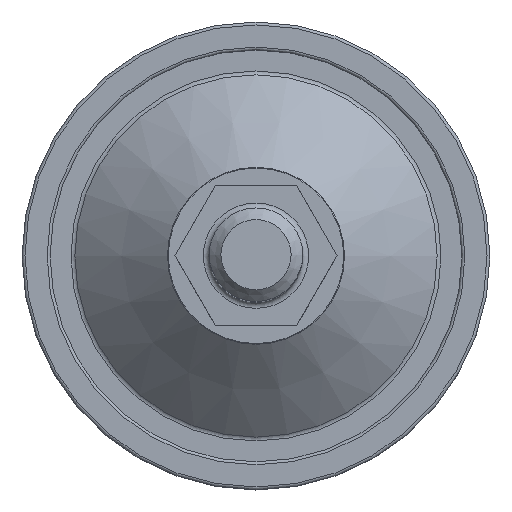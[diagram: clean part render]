
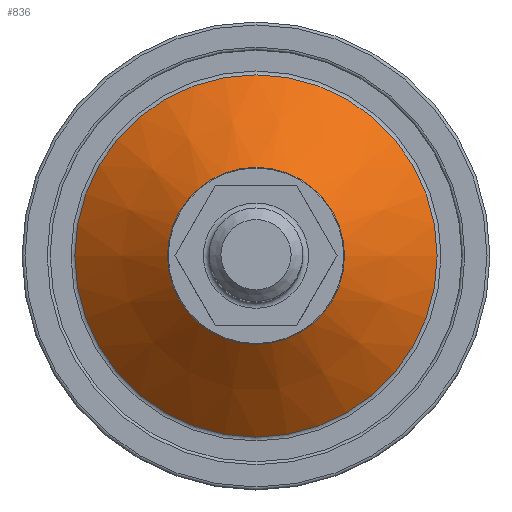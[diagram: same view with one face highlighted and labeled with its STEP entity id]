
A CAD part, top view. The second image highlights one B-rep face of the part: STEP entity #836.
In plain terms, the highlighted conical face has half-angle 49.002 degrees and reference radius 23.047 mm.
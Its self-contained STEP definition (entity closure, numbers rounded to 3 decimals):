
#70=CONICAL_SURFACE('',#944,23.047,49.002);
#140=FACE_BOUND('',#312,.T.);
#214=FACE_OUTER_BOUND('',#311,.T.);
#311=EDGE_LOOP('',(#707));
#312=EDGE_LOOP('',(#708));
#416=CIRCLE('',#930,15.124);
#424=CIRCLE('',#943,30.97);
#494=VERTEX_POINT('',#1430);
#502=VERTEX_POINT('',#1451);
#578=EDGE_CURVE('',#494,#494,#416,.T.);
#586=EDGE_CURVE('',#502,#502,#424,.T.);
#707=ORIENTED_EDGE('',*,*,#578,.T.);
#708=ORIENTED_EDGE('',*,*,#586,.F.);
#836=ADVANCED_FACE('',(#214,#140),#70,.T.);
#930=AXIS2_PLACEMENT_3D('',#1431,#1129,#1130);
#943=AXIS2_PLACEMENT_3D('',#1452,#1155,#1156);
#944=AXIS2_PLACEMENT_3D('',#1453,#1157,#1158);
#1129=DIRECTION('center_axis',(0.,0.,-1.));
#1130=DIRECTION('ref_axis',(1.,0.,0.));
#1155=DIRECTION('center_axis',(0.,0.,-1.));
#1156=DIRECTION('ref_axis',(1.,0.,0.));
#1157=DIRECTION('center_axis',(0.,0.,-1.));
#1158=DIRECTION('ref_axis',(1.,0.,0.));
#1430=CARTESIAN_POINT('',(-15.125,-0.001,-48.507));
#1431=CARTESIAN_POINT('Origin',(-0.001,-0.001,
-48.507));
#1451=CARTESIAN_POINT('',(-30.971,-0.001,-62.281));
#1452=CARTESIAN_POINT('Origin',(-0.001,-0.001,
-62.281));
#1453=CARTESIAN_POINT('Origin',(-0.001,-0.001,
-55.394));
